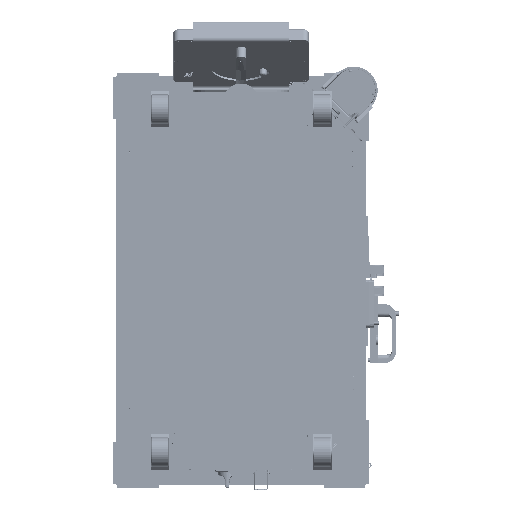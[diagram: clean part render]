
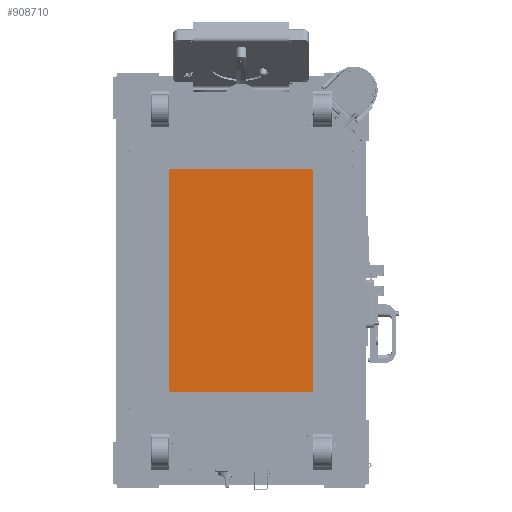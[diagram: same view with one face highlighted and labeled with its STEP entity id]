
A CAD part, front view. The second image highlights one B-rep face of the part: STEP entity #908710.
In plain terms, the highlighted planar face has unit normal (0, -1, 0).
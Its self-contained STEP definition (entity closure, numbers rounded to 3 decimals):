
#28899 = CIRCLE ( 'NONE', #221412, 7. ) ;
#38166 = VERTEX_POINT ( 'NONE', #907253 ) ;
#60962 = CARTESIAN_POINT ( 'NONE',  ( 175., 10., -275. ) ) ;
#72291 = VERTEX_POINT ( 'NONE', #437743 ) ;
#121718 = EDGE_CURVE ( 'NONE', #38166, #72291, #1079017, .T. ) ;
#143817 = ORIENTED_EDGE ( 'NONE', *, *, #898706, .T. ) ;
#155436 = CIRCLE ( 'NONE', #1057776, 7. ) ;
#193816 = EDGE_CURVE ( 'NONE', #1353895, #579285, #1322804, .T. ) ;
#200943 = CARTESIAN_POINT ( 'NONE',  ( 182., 10., -275. ) ) ;
#221412 = AXIS2_PLACEMENT_3D ( 'NONE', #396514, #616049, #1139954 ) ;
#225586 = VERTEX_POINT ( 'NONE', #928720 ) ;
#239680 = CARTESIAN_POINT ( 'NONE',  ( -182., 10., 275. ) ) ;
#253400 = ORIENTED_EDGE ( 'NONE', *, *, #121718, .T. ) ;
#291740 = CARTESIAN_POINT ( 'NONE',  ( 175., 10., 275. ) ) ;
#321635 = DIRECTION ( 'NONE',  ( 0., -1., 0. ) ) ;
#326259 = DIRECTION ( 'NONE',  ( 0., 0., -1. ) ) ;
#351783 = DIRECTION ( 'NONE',  ( 0., 0., -1. ) ) ;
#391318 = VECTOR ( 'NONE', #823549, 1000. ) ;
#396514 = CARTESIAN_POINT ( 'NONE',  ( -175., 10., 275. ) ) ;
#403814 = DIRECTION ( 'NONE',  ( 0., -1., 0. ) ) ;
#437743 = CARTESIAN_POINT ( 'NONE',  ( -175., 10., 282. ) ) ;
#441685 = ORIENTED_EDGE ( 'NONE', *, *, #813285, .T. ) ;
#442875 = CARTESIAN_POINT ( 'NONE',  ( 182., 10., 275. ) ) ;
#473768 = CIRCLE ( 'NONE', #1379466, 7. ) ;
#473821 = EDGE_CURVE ( 'NONE', #1353510, #1353895, #1365876, .T. ) ;
#476524 = CARTESIAN_POINT ( 'NONE',  ( -175., 10., -282. ) ) ;
#579285 = VERTEX_POINT ( 'NONE', #200943 ) ;
#584587 = DIRECTION ( 'NONE',  ( 0., -1., 0. ) ) ;
#614036 = DIRECTION ( 'NONE',  ( 0., 0., -1. ) ) ;
#616049 = DIRECTION ( 'NONE',  ( 0., -1., 0. ) ) ;
#714151 = VECTOR ( 'NONE', #1327563, 1000. ) ;
#715924 = EDGE_CURVE ( 'NONE', #72291, #1028700, #28899, .T. ) ;
#760308 = LINE ( 'NONE', #1010184, #391318 ) ;
#800224 = LINE ( 'NONE', #239680, #1068374 ) ;
#804423 = DIRECTION ( 'NONE',  ( 0., 0., -1. ) ) ;
#812774 = DIRECTION ( 'NONE',  ( -1., 0., 0. ) ) ;
#813285 = EDGE_CURVE ( 'NONE', #854141, #38166, #473768, .T. ) ;
#823549 = DIRECTION ( 'NONE',  ( 0., 0., 1. ) ) ;
#832512 = ORIENTED_EDGE ( 'NONE', *, *, #1149457, .T. ) ;
#844656 = AXIS2_PLACEMENT_3D ( 'NONE', #60962, #584587, #804423 ) ;
#854141 = VERTEX_POINT ( 'NONE', #442875 ) ;
#888819 = ORIENTED_EDGE ( 'NONE', *, *, #473821, .T. ) ;
#898706 = EDGE_CURVE ( 'NONE', #579285, #854141, #760308, .T. ) ;
#907253 = CARTESIAN_POINT ( 'NONE',  ( 175., 10., 282. ) ) ;
#908710 = ADVANCED_FACE ( 'NONE', ( #1036164 ), #1144375, .F. ) ;
#928720 = CARTESIAN_POINT ( 'NONE',  ( -182., 10., -275. ) ) ;
#934642 = CARTESIAN_POINT ( 'NONE',  ( -182., 10., 275. ) ) ;
#935898 = CARTESIAN_POINT ( 'NONE',  ( -175., 10., 282. ) ) ;
#954244 = DIRECTION ( 'NONE',  ( -1., 0., 0. ) ) ;
#1010184 = CARTESIAN_POINT ( 'NONE',  ( 182., 10., 275. ) ) ;
#1013453 = ORIENTED_EDGE ( 'NONE', *, *, #1265301, .T. ) ;
#1028700 = VERTEX_POINT ( 'NONE', #934642 ) ;
#1036164 = FACE_OUTER_BOUND ( 'NONE', #1064033, .T. ) ;
#1057776 = AXIS2_PLACEMENT_3D ( 'NONE', #1186317, #321635, #326259 ) ;
#1064033 = EDGE_LOOP ( 'NONE', ( #253400, #1180924, #832512, #1013453, #888819, #1277822, #143817, #441685 ) ) ;
#1068374 = VECTOR ( 'NONE', #351783, 1000. ) ;
#1074509 = AXIS2_PLACEMENT_3D ( 'NONE', #1345537, #1135251, #812774 ) ;
#1079017 = LINE ( 'NONE', #935898, #1262769 ) ;
#1135251 = DIRECTION ( 'NONE',  ( 0., 1., 0. ) ) ;
#1139954 = DIRECTION ( 'NONE',  ( 0., 0., -1. ) ) ;
#1144375 = PLANE ( 'NONE',  #1074509 ) ;
#1149457 = EDGE_CURVE ( 'NONE', #1028700, #225586, #800224, .T. ) ;
#1180924 = ORIENTED_EDGE ( 'NONE', *, *, #715924, .T. ) ;
#1186317 = CARTESIAN_POINT ( 'NONE',  ( -175., 10., -275. ) ) ;
#1202260 = CARTESIAN_POINT ( 'NONE',  ( 175., 10., -282. ) ) ;
#1220946 = CARTESIAN_POINT ( 'NONE',  ( -175., 10., -282. ) ) ;
#1262769 = VECTOR ( 'NONE', #954244, 1000. ) ;
#1265301 = EDGE_CURVE ( 'NONE', #225586, #1353510, #155436, .T. ) ;
#1277822 = ORIENTED_EDGE ( 'NONE', *, *, #193816, .T. ) ;
#1322804 = CIRCLE ( 'NONE', #844656, 7. ) ;
#1327563 = DIRECTION ( 'NONE',  ( 1., 0., 0. ) ) ;
#1345537 = CARTESIAN_POINT ( 'NONE',  ( 190., 10., 290. ) ) ;
#1353510 = VERTEX_POINT ( 'NONE', #1220946 ) ;
#1353895 = VERTEX_POINT ( 'NONE', #1202260 ) ;
#1365876 = LINE ( 'NONE', #476524, #714151 ) ;
#1379466 = AXIS2_PLACEMENT_3D ( 'NONE', #291740, #403814, #614036 ) ;
